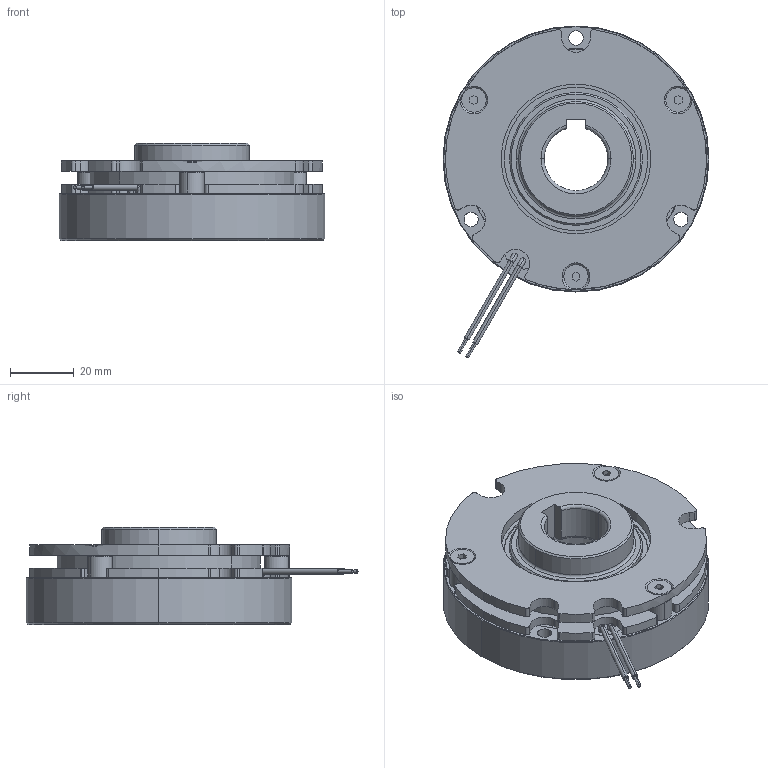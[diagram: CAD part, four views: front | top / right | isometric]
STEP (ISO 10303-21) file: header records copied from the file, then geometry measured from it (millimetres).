
FILE_DESCRIPTION (( 'STEP AP214' ), '1' );
FILE_NAME ('ÌÞÚ°·_BXR-06-20_B.STEP', '2017-08-01T08:02:58', ( 'MIKI' ), ( '' ), 'SwSTEP 2.0', 'SolidWorks 2012', '' );
FILE_SCHEMA (( 'AUTOMOTIVE_DESIGN' ));
Length unit declared in the file: millimetre
Products named in the file (1): 枌痚愷BXR-06-20_B
Bounding box: 83.5 x 104.24 x 30.5 mm (x, y, z)
Volume: 91898.3 mm3; surface area: 36156.8 mm2
Topology: 1 solids, 4 shells, 304 faces, 745 edges, 474 vertices
Faces by surface type: cylinder 156, plane 85, cone 49, torus 14
Entity records: 12540 total; most frequent: DIRECTION 1750, CARTESIAN_POINT 1577, ORIENTED_EDGE 1490, EDGE_CURVE 745, AXIS2_PLACEMENT_3D 709, VERTEX_POINT 474, CIRCLE 404, EDGE_LOOP 361
